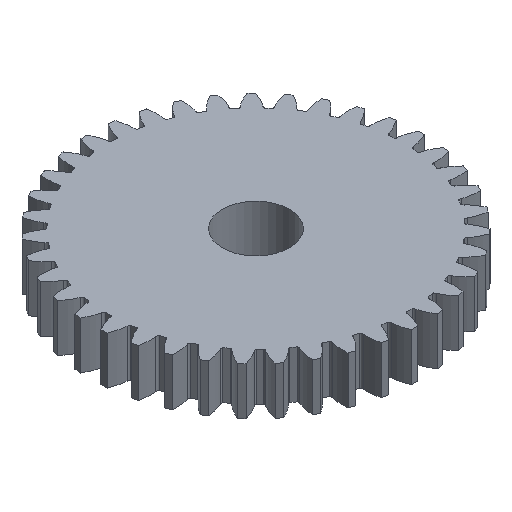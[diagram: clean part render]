
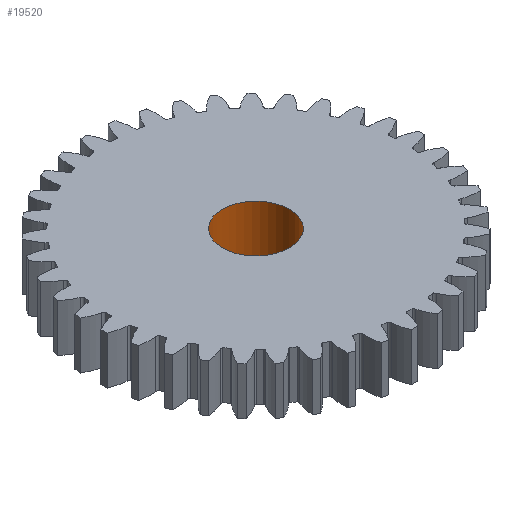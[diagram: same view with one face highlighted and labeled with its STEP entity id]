
A CAD part, isometric view. The second image highlights one B-rep face of the part: STEP entity #19520.
In plain terms, the highlighted cylindrical face has radius 4.15 mm (diameter 8.3 mm), a full revolution.
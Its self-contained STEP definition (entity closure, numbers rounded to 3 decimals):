
#46 = PLANE('',#47);
#47 = AXIS2_PLACEMENT_3D('',#48,#49,#50);
#48 = CARTESIAN_POINT('',(0.,0.,0.));
#49 = DIRECTION('',(0.,0.,1.));
#50 = DIRECTION('',(1.,0.,0.));
#105 = PLANE('',#106);
#106 = AXIS2_PLACEMENT_3D('',#107,#108,#109);
#107 = CARTESIAN_POINT('',(0.,0.,5.9));
#108 = DIRECTION('',(0.,0.,1.));
#109 = DIRECTION('',(1.,0.,0.));
#7746 = EDGE_CURVE('',#7747,#7747,#7749,.T.);
#7747 = VERTEX_POINT('',#7748);
#7748 = CARTESIAN_POINT('',(-4.15,0.,0.));
#7749 = SURFACE_CURVE('',#7750,(#7755,#7766),.PCURVE_S1.);
#7750 = CIRCLE('',#7751,4.15);
#7751 = AXIS2_PLACEMENT_3D('',#7752,#7753,#7754);
#7752 = CARTESIAN_POINT('',(0.,0.,0.));
#7753 = DIRECTION('',(0.,0.,-1.));
#7754 = DIRECTION('',(-1.,0.,0.));
#7755 = PCURVE('',#46,#7756);
#7756 = DEFINITIONAL_REPRESENTATION('',(#7757),#7765);
#7757 = ( BOUNDED_CURVE() B_SPLINE_CURVE(2,(#7758,#7759,#7760,#7761,
#7762,#7763,#7764),.UNSPECIFIED.,.T.,.F.) B_SPLINE_CURVE_WITH_KNOTS((1,2
    ,2,2,2,1),(-2.094,0.,2.094,4.189,
6.283,8.378),.UNSPECIFIED.) CURVE() 
GEOMETRIC_REPRESENTATION_ITEM() RATIONAL_B_SPLINE_CURVE((1.,0.5,1.,0.5,
1.,0.5,1.)) REPRESENTATION_ITEM('') );
#7758 = CARTESIAN_POINT('',(-4.15,0.));
#7759 = CARTESIAN_POINT('',(-4.15,7.188));
#7760 = CARTESIAN_POINT('',(2.075,3.594));
#7761 = CARTESIAN_POINT('',(8.3,0.));
#7762 = CARTESIAN_POINT('',(2.075,-3.594));
#7763 = CARTESIAN_POINT('',(-4.15,-7.188));
#7764 = CARTESIAN_POINT('',(-4.15,0.));
#7765 = ( GEOMETRIC_REPRESENTATION_CONTEXT(2) 
PARAMETRIC_REPRESENTATION_CONTEXT() REPRESENTATION_CONTEXT('2D SPACE',''
  ) );
#7766 = PCURVE('',#7767,#7772);
#7767 = CYLINDRICAL_SURFACE('',#7768,4.15);
#7768 = AXIS2_PLACEMENT_3D('',#7769,#7770,#7771);
#7769 = CARTESIAN_POINT('',(0.,0.,5.9));
#7770 = DIRECTION('',(0.,0.,-1.));
#7771 = DIRECTION('',(-1.,0.,0.));
#7772 = DEFINITIONAL_REPRESENTATION('',(#7773),#7777);
#7773 = LINE('',#7774,#7775);
#7774 = CARTESIAN_POINT('',(0.,5.9));
#7775 = VECTOR('',#7776,1.);
#7776 = DIRECTION('',(1.,0.));
#7777 = ( GEOMETRIC_REPRESENTATION_CONTEXT(2) 
PARAMETRIC_REPRESENTATION_CONTEXT() REPRESENTATION_CONTEXT('2D SPACE',''
  ) );
#13480 = EDGE_CURVE('',#13481,#13481,#13483,.T.);
#13481 = VERTEX_POINT('',#13482);
#13482 = CARTESIAN_POINT('',(-4.15,0.,5.9));
#13483 = SURFACE_CURVE('',#13484,(#13489,#13500),.PCURVE_S1.);
#13484 = CIRCLE('',#13485,4.15);
#13485 = AXIS2_PLACEMENT_3D('',#13486,#13487,#13488);
#13486 = CARTESIAN_POINT('',(0.,0.,5.9));
#13487 = DIRECTION('',(0.,0.,-1.));
#13488 = DIRECTION('',(-1.,0.,0.));
#13489 = PCURVE('',#105,#13490);
#13490 = DEFINITIONAL_REPRESENTATION('',(#13491),#13499);
#13491 = ( BOUNDED_CURVE() B_SPLINE_CURVE(2,(#13492,#13493,#13494,#13495
    ,#13496,#13497,#13498),.UNSPECIFIED.,.T.,.F.) 
B_SPLINE_CURVE_WITH_KNOTS((1,2,2,2,2,1),(-2.094,0.,
    2.094,4.189,6.283,8.378),
.UNSPECIFIED.) CURVE() GEOMETRIC_REPRESENTATION_ITEM() 
RATIONAL_B_SPLINE_CURVE((1.,0.5,1.,0.5,1.,0.5,1.)) REPRESENTATION_ITEM(
  '') );
#13492 = CARTESIAN_POINT('',(-4.15,0.));
#13493 = CARTESIAN_POINT('',(-4.15,7.188));
#13494 = CARTESIAN_POINT('',(2.075,3.594));
#13495 = CARTESIAN_POINT('',(8.3,0.));
#13496 = CARTESIAN_POINT('',(2.075,-3.594));
#13497 = CARTESIAN_POINT('',(-4.15,-7.188));
#13498 = CARTESIAN_POINT('',(-4.15,0.));
#13499 = ( GEOMETRIC_REPRESENTATION_CONTEXT(2) 
PARAMETRIC_REPRESENTATION_CONTEXT() REPRESENTATION_CONTEXT('2D SPACE',''
  ) );
#13500 = PCURVE('',#7767,#13501);
#13501 = DEFINITIONAL_REPRESENTATION('',(#13502),#13506);
#13502 = LINE('',#13503,#13504);
#13503 = CARTESIAN_POINT('',(0.,0.));
#13504 = VECTOR('',#13505,1.);
#13505 = DIRECTION('',(1.,0.));
#13506 = ( GEOMETRIC_REPRESENTATION_CONTEXT(2) 
PARAMETRIC_REPRESENTATION_CONTEXT() REPRESENTATION_CONTEXT('2D SPACE',''
  ) );
#19520 = ADVANCED_FACE('',(#19521),#7767,.F.);
#19521 = FACE_BOUND('',#19522,.F.);
#19522 = EDGE_LOOP('',(#19523,#19524,#19545,#19546));
#19523 = ORIENTED_EDGE('',*,*,#7746,.F.);
#19524 = ORIENTED_EDGE('',*,*,#19525,.F.);
#19525 = EDGE_CURVE('',#13481,#7747,#19526,.T.);
#19526 = SEAM_CURVE('',#19527,(#19531,#19538),.PCURVE_S1.);
#19527 = LINE('',#19528,#19529);
#19528 = CARTESIAN_POINT('',(-4.15,0.,5.9));
#19529 = VECTOR('',#19530,1.);
#19530 = DIRECTION('',(0.,0.,-1.));
#19531 = PCURVE('',#7767,#19532);
#19532 = DEFINITIONAL_REPRESENTATION('',(#19533),#19537);
#19533 = LINE('',#19534,#19535);
#19534 = CARTESIAN_POINT('',(6.283,-0.));
#19535 = VECTOR('',#19536,1.);
#19536 = DIRECTION('',(0.,1.));
#19537 = ( GEOMETRIC_REPRESENTATION_CONTEXT(2) 
PARAMETRIC_REPRESENTATION_CONTEXT() REPRESENTATION_CONTEXT('2D SPACE',''
  ) );
#19538 = PCURVE('',#7767,#19539);
#19539 = DEFINITIONAL_REPRESENTATION('',(#19540),#19544);
#19540 = LINE('',#19541,#19542);
#19541 = CARTESIAN_POINT('',(0.,-0.));
#19542 = VECTOR('',#19543,1.);
#19543 = DIRECTION('',(0.,1.));
#19544 = ( GEOMETRIC_REPRESENTATION_CONTEXT(2) 
PARAMETRIC_REPRESENTATION_CONTEXT() REPRESENTATION_CONTEXT('2D SPACE',''
  ) );
#19545 = ORIENTED_EDGE('',*,*,#13480,.T.);
#19546 = ORIENTED_EDGE('',*,*,#19525,.T.);
